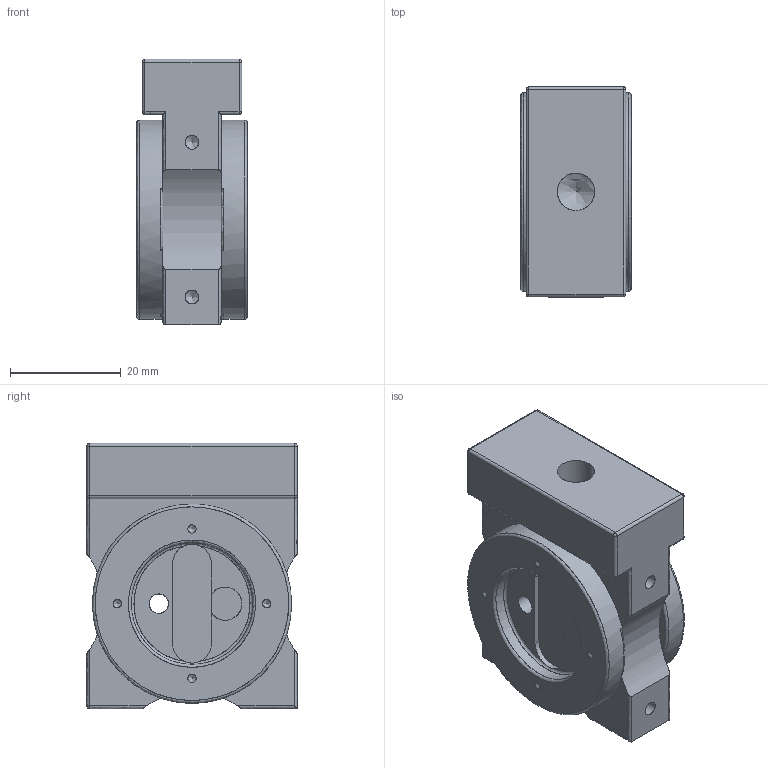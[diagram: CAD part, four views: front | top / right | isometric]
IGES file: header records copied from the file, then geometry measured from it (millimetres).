
Global section: file name: Y:\_LCPD Drawings\13.1 Lightweight Models\8003\WOLLASTON PRISM\WOLLASTON PRISM.igs; native system: NX V7.5; preprocessor: SIEMENS PLM Software NX 7.5; date: 20110720.141745; units: millimetre
Bounding box: 20 x 38 x 48 mm (x, y, z)
Surface area: 8165.1 mm2 (no closed solid volume)
Topology: 0 solids, 0 shells, 126 faces, 862 edges, 798 vertices
Faces by surface type: bspline 126
